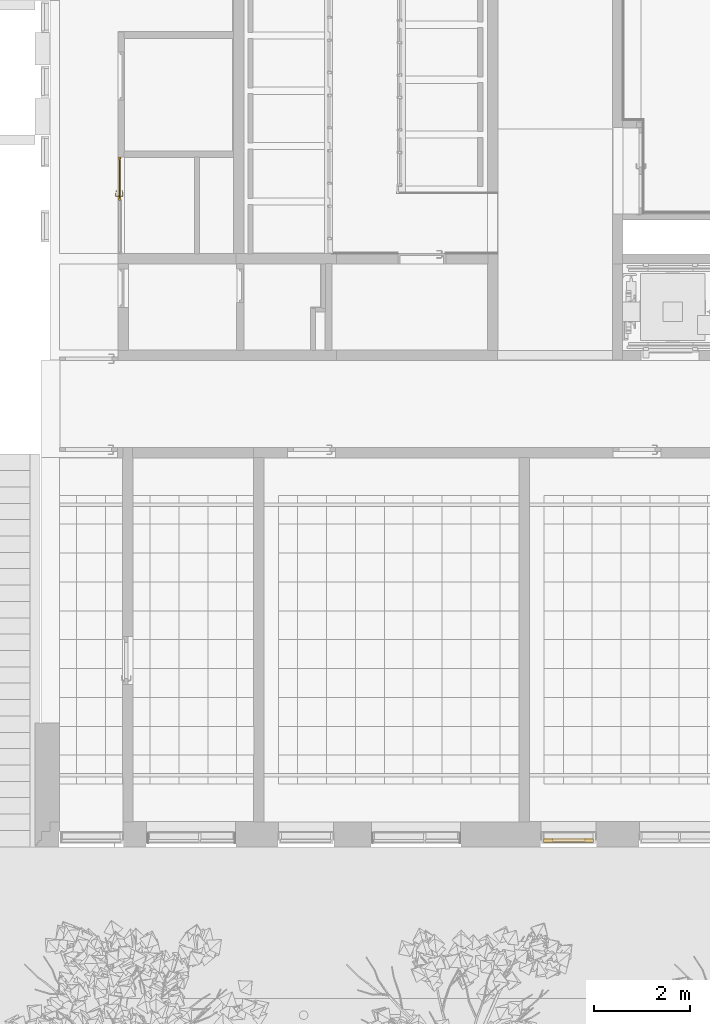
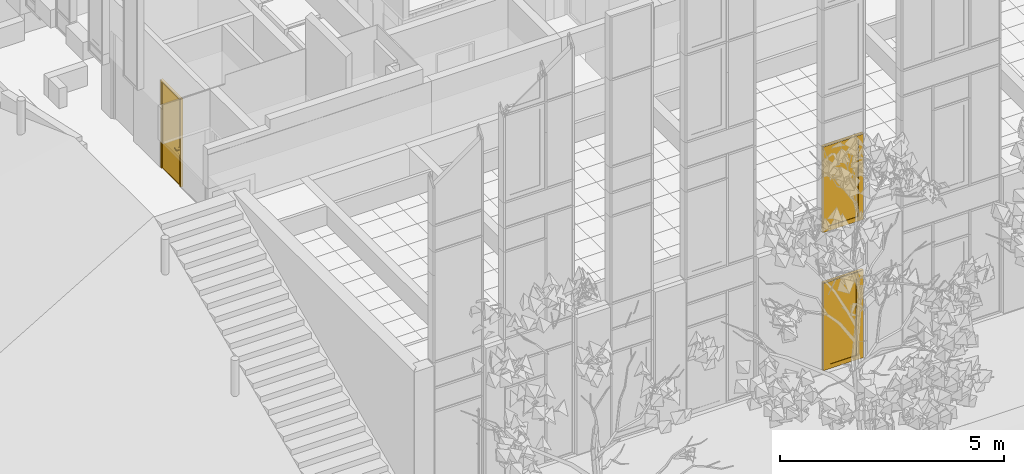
# One storey, part 154 of 246: 2 doors, 1 window, 2 elements without a shape of their own.
"""IFC2X3 building model written with IfcOpenShell, lengths in millimetres."""

from ifc_helpers import new_model, entity, si_unit, converted_unit, derived_unit, money_unit, direction, frame, origin_with_axes, place, context, subcontext, project, spatial, open_shell, faceted_brep, surface_model, material, material_list, type_object, element, aggregate, save


model = new_model("IFC2X3")

# Units and contexts
model_context = context("Model", 3, precision=0.01, world=origin_with_axes(), true_north=direction((0.0, 1.0)))
body_context = subcontext(model_context, "Body", "Model", "MODEL_VIEW")
ifc_project = project(units=[si_unit("LENGTHUNIT", "METRE", prefix="MILLI"), si_unit("AREAUNIT", "SQUARE_METRE"), si_unit("VOLUMEUNIT", "CUBIC_METRE"), converted_unit("PLANEANGLEUNIT", "DEGREE", entity("IfcPlaneAngleMeasure", 0.0174532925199), si_unit("PLANEANGLEUNIT", "RADIAN"), dimensions=[0, 0, 0, 0, 0, 0, 0]), si_unit("SOLIDANGLEUNIT", "STERADIAN"), money_unit("EUR"), converted_unit("TIMEUNIT", "Year", entity("IfcTimeMeasure", 31556926.0), si_unit("TIMEUNIT", "SECOND"), dimensions=[0, 0, 1, 0, 0, 0, 0]), si_unit("MASSUNIT", "GRAM", prefix="KILO"), si_unit("THERMODYNAMICTEMPERATUREUNIT", "DEGREE_CELSIUS"), si_unit("LUMINOUSINTENSITYUNIT", "LUMEN"), si_unit("ENERGYUNIT", "JOULE", prefix="MEGA"), derived_unit("THERMALCONDUCTANCEUNIT", [(si_unit("POWERUNIT", "WATT"), 1), (si_unit("LENGTHUNIT", "METRE"), -1), (si_unit("THERMODYNAMICTEMPERATUREUNIT", "KELVIN"), -1)]), derived_unit("SPECIFICHEATCAPACITYUNIT", [(si_unit("ENERGYUNIT", "JOULE"), 1), (si_unit("MASSUNIT", "GRAM", prefix="KILO"), -1), (si_unit("THERMODYNAMICTEMPERATUREUNIT", "KELVIN"), -1)]), derived_unit("MASSDENSITYUNIT", [(si_unit("MASSUNIT", "GRAM", prefix="KILO"), 1), (si_unit("VOLUMEUNIT", "CUBIC_METRE"), -1)])], contexts=[model_context])

# Site, building, storey
site_placement = place(None, origin_with_axes())
site = spatial("IfcSite", under=ifc_project, at=site_placement, Name="L.Koidula tn 11b", CompositionType="ELEMENT")
building_placement = place(site_placement, origin_with_axes())
building = spatial("IfcBuilding", under=site, at=building_placement, Name="Rakvere Riigigümnaasium", CompositionType="ELEMENT")
storey_placement = place(building_placement, origin_with_axes())
storey = spatial("IfcBuildingStorey", under=building, at=storey_placement, Name="1.korrus 0,00", CompositionType="ELEMENT", Elevation=0.0)

# Curtain wall, door
curtain_wall_type = type_object("IfcCurtainWallType", Name="Curtain Wall Type", PredefinedType="NOTDEFINED")
curtain_wall_1_placement = place(storey_placement, frame((45905.0206042, 5111.45334637, -8.09717236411e-06), z_axis=(0.0, 0.0, 1.0), x_axis=(1.0, 0.0, 0.0)))
curtain_wall_1 = element("IfcCurtainWall", 1, at=curtain_wall_1_placement, inside=storey, type_object=curtain_wall_type, Name="KLF-05-1B")
ifc_material_1 = material(Name="Alumiiniumprofiil (RAL 7021)")
ifc_material_2 = material(Name="Klaaspakett 3x ribikardinatega")
ifc_material_list_1 = material_list([ifc_material_1, ifc_material_2])
door_style_1 = type_object("IfcDoorStyle", Name="1046 x 2388 x 54", ConstructionType="NOTDEFINED", OperationType="NOTDEFINED", ParameterTakesPrecedence=False, Sizeable=False)
door_1_placement = place(curtain_wall_1_placement, frame((0.0, 0.0, 1200.0), z_axis=(0.0, 0.0, 1.0), x_axis=(-1.0, 0.0, 0.0)))
door_1 = element("IfcDoor", 2, at=door_1_placement, type_object=door_style_1, material=ifc_material_list_1, Name="KLF-05-VU-2", ObjectType="DOOR", context=body_context, shape_type="SurfaceModel", body=[
    surface_model("IfcShellBasedSurfaceModel", [(-684.490464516, -53.0, -1200.0), (-631.490464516, -53.0, -1200.0), (-631.490464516, -53.0, 1122.0), (-684.490464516, -53.0, 1175.0)], [open_shell([[[0, 1, 2, 3]]])]),
    surface_model("IfcShellBasedSurfaceModel", [(335.509964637, -53.0, 1175.0), (-684.490464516, -53.0, 1175.0), (-631.490464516, -53.0, 1122.0), (282.509964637, -53.0, 1122.0)], [open_shell([[[0, 1, 2, 3]]])]),
    surface_model("IfcShellBasedSurfaceModel", [(335.509964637, -53.0, -1200.0), (335.509964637, -53.0, 1175.0), (282.509964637, -53.0, 1122.0), (282.509964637, -53.0, -1200.0)], [open_shell([[[0, 1, 2, 3]]])]),
    faceted_brep([(-684.490464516, -53.0, -1200.0), (-684.490464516, -53.0, 1175.0), (-684.490464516, 37.0, 1175.0), (-684.490464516, 37.0, -1200.0), (-631.490464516, -53.0, -1200.0), (-631.490464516, -53.0, 1122.0), (-631.490464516, 37.0, 1122.0), (-631.490464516, 37.0, -1200.0)], [[[0, 1, 2, 3]], [[0, 4, 5, 1]], [[1, 5, 6, 2]], [[3, 2, 6, 7]], [[4, 0, 3, 7]], [[5, 4, 7, 6]]]),
    faceted_brep([(335.509964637, -53.0, 1175.0), (282.509964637, -53.0, 1122.0), (282.509964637, 37.0, 1122.0), (335.509964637, 37.0, 1175.0), (-684.490464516, -53.0, 1175.0), (-631.490464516, -53.0, 1122.0), (-631.490464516, 37.0, 1122.0), (-684.490464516, 37.0, 1175.0)], [[[0, 1, 2, 3]], [[0, 4, 5, 1]], [[1, 5, 6, 2]], [[3, 2, 6, 7]], [[4, 0, 3, 7]], [[5, 4, 7, 6]]]),
    faceted_brep([(335.509964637, -53.0, -1200.0), (282.509964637, -53.0, -1200.0), (282.509964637, 37.0, -1200.0), (335.509964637, 37.0, -1200.0), (335.509964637, -53.0, 1175.0), (282.509964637, -53.0, 1122.0), (282.509964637, 37.0, 1122.0), (335.509964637, 37.0, 1175.0)], [[[0, 1, 2, 3]], [[0, 4, 5, 1]], [[1, 5, 6, 2]], [[3, 2, 6, 7]], [[4, 0, 3, 7]], [[5, 4, 7, 6]]]),
    faceted_brep([(-697.490464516, -27.0, -1200.0), (-697.490464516, -27.0, 1188.0), (-697.490464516, 27.0, 1188.0), (-697.490464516, 27.0, -1200.0), (-684.490464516, -27.0, -1200.0), (-684.490464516, -27.0, 1175.0), (-684.490464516, 27.0, 1175.0), (-684.490464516, 27.0, -1200.0)], [[[0, 1, 2, 3]], [[0, 4, 5, 1]], [[1, 5, 6, 2]], [[3, 2, 6, 7]], [[4, 0, 3, 7]], [[5, 4, 7, 6]]]),
    faceted_brep([(-697.490464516, -27.0, 1188.0), (348.509964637, -27.0, 1188.0), (348.509964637, 27.0, 1188.0), (-697.490464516, 27.0, 1188.0), (-684.490464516, -27.0, 1175.0), (335.509964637, -27.0, 1175.0), (335.509964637, 27.0, 1175.0), (-684.490464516, 27.0, 1175.0)], [[[0, 1, 2, 3]], [[0, 4, 5, 1]], [[1, 5, 6, 2]], [[3, 2, 6, 7]], [[4, 0, 3, 7]], [[5, 4, 7, 6]]]),
    faceted_brep([(348.509964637, -27.0, 1188.0), (348.509964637, -27.0, -1200.0), (348.509964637, 27.0, -1200.0), (348.509964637, 27.0, 1188.0), (335.509964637, -27.0, 1175.0), (335.509964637, -27.0, -1200.0), (335.509964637, 27.0, -1200.0), (335.509964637, 27.0, 1175.0)], [[[0, 1, 2, 3]], [[0, 4, 5, 1]], [[1, 5, 6, 2]], [[3, 2, 6, 7]], [[4, 0, 3, 7]], [[5, 4, 7, 6]]]),
    faceted_brep([(163.509964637, -53.0, -1081.0), (163.509964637, -53.0, 1003.0), (163.509964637, 37.0, 1003.0), (163.509964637, 37.0, -1081.0), (282.509964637, -53.0, -1200.0), (282.509964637, -53.0, 1122.0), (282.509964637, 37.0, 1122.0), (282.509964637, 37.0, -1200.0)], [[[0, 1, 2, 3]], [[0, 4, 5, 1]], [[1, 5, 6, 2]], [[3, 2, 6, 7]], [[4, 0, 3, 7]], [[5, 4, 7, 6]]]),
    faceted_brep([(-631.490464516, -53.0, -1200.0), (-631.490464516, -53.0, 1122.0), (-631.490464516, 37.0, 1122.0), (-631.490464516, 37.0, -1200.0), (-512.490464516, -53.0, -1081.0), (-512.490464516, -53.0, 1003.0), (-512.490464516, 37.0, 1003.0), (-512.490464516, 37.0, -1081.0)], [[[0, 1, 2, 3]], [[0, 4, 5, 1]], [[1, 5, 6, 2]], [[3, 2, 6, 7]], [[4, 0, 3, 7]], [[5, 4, 7, 6]]]),
    faceted_brep([(-631.490464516, -53.0, -1200.0), (-512.490464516, -53.0, -1081.0), (-512.490464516, 37.0, -1081.0), (-631.490464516, 37.0, -1200.0), (282.509964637, -53.0, -1200.0), (163.509964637, -53.0, -1081.0), (163.509964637, 37.0, -1081.0), (282.509964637, 37.0, -1200.0)], [[[0, 1, 2, 3]], [[0, 4, 5, 1]], [[1, 5, 6, 2]], [[3, 2, 6, 7]], [[4, 0, 3, 7]], [[5, 4, 7, 6]]]),
    faceted_brep([(282.509964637, -53.0, 1122.0), (163.509964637, -53.0, 1003.0), (163.509964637, 37.0, 1003.0), (282.509964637, 37.0, 1122.0), (-631.490464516, -53.0, 1122.0), (-512.490464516, -53.0, 1003.0), (-512.490464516, 37.0, 1003.0), (-631.490464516, 37.0, 1122.0)], [[[0, 1, 2, 3]], [[0, 4, 5, 1]], [[1, 5, 6, 2]], [[3, 2, 6, 7]], [[4, 0, 3, 7]], [[5, 4, 7, 6]]]),
    faceted_brep([(163.509964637, 11.0, -1081.0), (-512.490464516, 11.0, -1081.0), (-512.490464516, 27.0, -1081.0), (163.509964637, 27.0, -1081.0), (163.509964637, 11.0, 1003.0), (-512.490464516, 11.0, 1003.0), (-512.490464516, 27.0, 1003.0), (163.509964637, 27.0, 1003.0)], [[[0, 1, 2, 3]], [[0, 4, 5, 1]], [[1, 5, 6, 2]], [[3, 2, 6, 7]], [[4, 0, 3, 7]], [[5, 4, 7, 6]]]),
])

curtain_wall_2_placement = place(storey_placement, frame((36749.0000697, 18870.4397072, 0.0), z_axis=(0.0, 0.0, 1.0), x_axis=(1.0, 0.0, 0.0)))
curtain_wall_2 = element("IfcCurtainWall", 3, at=curtain_wall_2_placement, inside=storey, type_object=curtain_wall_type, Name="SKLF-06")
ifc_material_3 = material(Name="Alumiiniumprofiil")
ifc_material_4 = material(Name="VKR-05_Klaas")
ifc_material_5 = material(Name="ET-07_Teras - Roostevaba")
ifc_material_list_2 = material_list([ifc_material_3, ifc_material_4, ifc_material_5])
door_style_2 = type_object("IfcDoorStyle", Name="Siseklaasfassaad - Klaasuks-Doubleline 900 x 2400 x 6", ConstructionType="NOTDEFINED", OperationType="NOTDEFINED", ParameterTakesPrecedence=False, Sizeable=False)
door_2_placement = place(curtain_wall_2_placement, frame((0.0, 0.0, 1200.00000374), z_axis=(0.0, 0.0, 1.0), x_axis=(0.0, 1.0, 0.0)))
door_2 = element("IfcDoor", 4, at=door_2_placement, type_object=door_style_2, material=ifc_material_list_2, Name="Panel-Siseklaasf-005", ObjectType="DOOR", context=body_context, shape_type="SurfaceModel", body=[
    faceted_brep([(-450.0, 13.0, -1200.00000374), (-450.0, 13.0, 1200.00000374), (-450.0, 27.0, 1200.00000374), (-450.0, 27.0, -1200.00000374), (-404.0, 13.0, -1200.00000374), (-404.0, 13.0, 1154.00000374), (-404.0, 27.0, 1154.00000374), (-404.0, 27.0, -1200.00000374)], [[[0, 1, 2, 3]], [[0, 4, 5, 1]], [[1, 5, 6, 2]], [[3, 2, 6, 7]], [[4, 0, 3, 7]], [[5, 4, 7, 6]]]),
    faceted_brep([(450.0, 13.0, 1200.00000374), (404.0, 13.0, 1154.00000374), (404.0, 27.0, 1154.00000374), (450.0, 27.0, 1200.00000374), (-450.0, 13.0, 1200.00000374), (-404.0, 13.0, 1154.00000374), (-404.0, 27.0, 1154.00000374), (-450.0, 27.0, 1200.00000374)], [[[0, 1, 2, 3]], [[0, 4, 5, 1]], [[1, 5, 6, 2]], [[3, 2, 6, 7]], [[4, 0, 3, 7]], [[5, 4, 7, 6]]]),
    faceted_brep([(450.0, 13.0, -1200.00000374), (404.0, 13.0, -1200.00000374), (404.0, 27.0, -1200.00000374), (450.0, 27.0, -1200.00000374), (450.0, 13.0, 1200.00000374), (404.0, 13.0, 1154.00000374), (404.0, 27.0, 1154.00000374), (450.0, 27.0, 1200.00000374)], [[[0, 1, 2, 3]], [[0, 4, 5, 1]], [[1, 5, 6, 2]], [[3, 2, 6, 7]], [[4, 0, 3, 7]], [[5, 4, 7, 6]]]),
    faceted_brep([(-450.0, -27.0, -1200.00000374), (-450.0, -27.0, 1200.00000374), (-450.0, 13.0, 1200.00000374), (-450.0, 13.0, -1200.00000374), (-412.0, -27.0, -1200.00000374), (-412.0, -27.0, 1162.00000374), (-412.0, 13.0, 1162.00000374), (-412.0, 13.0, -1200.00000374)], [[[0, 1, 2, 3]], [[0, 4, 5, 1]], [[1, 5, 6, 2]], [[3, 2, 6, 7]], [[4, 0, 3, 7]], [[5, 4, 7, 6]]]),
    faceted_brep([(450.0, -27.0, 1200.00000374), (412.0, -27.0, 1162.00000374), (412.0, 13.0, 1162.00000374), (450.0, 13.0, 1200.00000374), (-450.0, -27.0, 1200.00000374), (-412.0, -27.0, 1162.00000374), (-412.0, 13.0, 1162.00000374), (-450.0, 13.0, 1200.00000374)], [[[0, 1, 2, 3]], [[0, 4, 5, 1]], [[1, 5, 6, 2]], [[3, 2, 6, 7]], [[4, 0, 3, 7]], [[5, 4, 7, 6]]]),
    faceted_brep([(450.0, -27.0, -1200.00000374), (412.0, -27.0, -1200.00000374), (412.0, 13.0, -1200.00000374), (450.0, 13.0, -1200.00000374), (450.0, -27.0, 1200.00000374), (412.0, -27.0, 1162.00000374), (412.0, 13.0, 1162.00000374), (450.0, 13.0, 1200.00000374)], [[[0, 1, 2, 3]], [[0, 4, 5, 1]], [[1, 5, 6, 2]], [[3, 2, 6, 7]], [[4, 0, 3, 7]], [[5, 4, 7, 6]]]),
    faceted_brep([(400.0, 13.0, -1188.00000374), (400.0, 0.999999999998, -1188.00000374), (400.0, 0.999999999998, 1150.00000374), (400.0, 13.0, 1150.00000374), (412.0, 13.0, -1200.00000374), (412.0, 0.999999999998, -1200.00000374), (412.0, 0.999999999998, 1162.00000374), (412.0, 13.0, 1162.00000374)], [[[0, 1, 2, 3]], [[4, 5, 1, 0]], [[1, 5, 6, 2]], [[3, 2, 6, 7]], [[0, 3, 7, 4]], [[7, 6, 5, 4]]]),
    faceted_brep([(-412.0, 13.0, -1200.00000374), (-412.0, 0.999999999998, -1200.00000374), (-412.0, 0.999999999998, 1162.00000374), (-412.0, 13.0, 1162.00000374), (-400.0, 13.0, -1188.00000374), (-400.0, 0.999999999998, -1188.00000374), (-400.0, 0.999999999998, 1150.00000374), (-400.0, 13.0, 1150.00000374)], [[[0, 1, 2, 3]], [[4, 5, 1, 0]], [[1, 5, 6, 2]], [[3, 2, 6, 7]], [[0, 3, 7, 4]], [[7, 6, 5, 4]]]),
    faceted_brep([(-412.0, 13.0, -1200.00000374), (-412.0, 0.999999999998, -1200.00000374), (-400.0, 0.999999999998, -1188.00000374), (-400.0, 13.0, -1188.00000374), (412.0, 13.0, -1200.00000374), (412.0, 0.999999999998, -1200.00000374), (400.0, 0.999999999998, -1188.00000374), (400.0, 13.0, -1188.00000374)], [[[0, 1, 2, 3]], [[4, 5, 1, 0]], [[1, 5, 6, 2]], [[3, 2, 6, 7]], [[0, 3, 7, 4]], [[7, 6, 5, 4]]]),
    faceted_brep([(412.0, 13.0, 1162.00000374), (412.0, 0.999999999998, 1162.00000374), (400.0, 0.999999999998, 1150.00000374), (400.0, 13.0, 1150.00000374), (-412.0, 13.0, 1162.00000374), (-412.0, 0.999999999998, 1162.00000374), (-400.0, 0.999999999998, 1150.00000374), (-400.0, 13.0, 1150.00000374)], [[[0, 1, 2, 3]], [[4, 5, 1, 0]], [[1, 5, 6, 2]], [[3, 2, 6, 7]], [[0, 3, 7, 4]], [[7, 6, 5, 4]]]),
    faceted_brep([(400.0, 3.0, -1188.00000374), (400.0, -13.0, -1188.00000374), (-400.0, -13.0, -1188.00000374), (-400.0, 3.0, -1188.00000374), (400.0, 3.0, 1150.00000374), (400.0, -13.0, 1150.00000374), (-400.0, -13.0, 1150.00000374), (-400.0, 3.0, 1150.00000374)], [[[0, 1, 2, 3]], [[4, 5, 1, 0]], [[1, 5, 6, 2]], [[3, 2, 6, 7]], [[0, 3, 7, 4]], [[7, 6, 5, 4]]]),
    faceted_brep([(-390.5, 0.999999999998, -178.000003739), (-390.5, -2.0, -178.000003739), (-333.5, -2.0, -178.000003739), (-333.5, 0.999999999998, -178.000003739), (-390.5, 0.999999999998, -368.000003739), (-390.5, -2.0, -368.000003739), (-333.5, -2.0, -368.000003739), (-333.5, 0.999999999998, -368.000003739)], [[[0, 1, 2, 3]], [[4, 5, 1, 0]], [[1, 5, 6, 2]], [[3, 2, 6, 7]], [[0, 3, 7, 4]], [[7, 6, 5, 4]]]),
    surface_model("IfcShellBasedSurfaceModel", [(-362.0, -63.0, -248.000003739), (-362.0, -70.0, -248.000003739), (-370.660254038, -70.0, -243.000003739), (-370.660254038, -63.0, -243.000003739), (-337.0, -63.0, -248.000003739), (-337.0, -70.0, -248.000003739), (-337.0, -70.0, -228.000003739), (-362.0, -70.0, -228.000003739), (-370.660254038, -70.0, -233.000003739), (-370.660254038, -63.0, -233.000003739), (-362.0, -63.0, -228.000003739), (-337.0, -63.0, -228.000003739)], [open_shell([[[0, 1, 2, 3]], [[4, 5, 1, 0]], [[1, 5, 6, 7, 8, 2]], [[3, 2, 8, 9]], [[0, 3, 9, 10, 11, 4]], [[10, 7, 6, 11]], [[9, 8, 7, 10]]])]),
    surface_model("IfcShellBasedSurfaceModel", [(-337.0, -63.0, -228.000003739), (-323.596090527, -70.0, -228.392702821), (-323.901717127, -63.0, -228.392702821), (-337.0, -70.0, -228.000003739), (-296.890283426, -67.6635446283, -229.178100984), (-323.901717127, -63.0, -247.607304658), (-337.0, -63.0, -248.000003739), (-337.0, -70.0, -248.000003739), (-323.596090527, -70.0, -247.607304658), (-296.890283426, -67.6635446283, -246.821906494), (-297.804837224, -60.716818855, -229.178100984), (-297.804837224, -60.716818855, -246.821906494), (-270.489735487, -63.0084157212, -246.036508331), (-270.489735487, -63.0084157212, -229.963499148), (-272.006256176, -56.1678329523, -229.963499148), (-272.006256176, -56.1678329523, -246.036508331), (-244.59537082, -56.0700416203, -245.251110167), (-244.59537082, -56.0700416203, -230.748897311), (-246.702316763, -49.3876628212, -230.748897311), (-246.702316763, -49.3876628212, -245.251110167), (-236.538795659, -53.1376880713, -245.000003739), (-236.538795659, -53.1376880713, -231.000003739), (-238.829442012, -46.5221707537, -231.000003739), (-238.829442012, -46.5221707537, -245.000003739)], [open_shell([[[0, 1, 2]], [[0, 3, 1]], [[2, 1, 4]], [[0, 2, 5, 6]], [[3, 7, 8, 1]], [[1, 8, 9, 4]], [[2, 4, 10]], [[2, 10, 11, 5]], [[5, 7, 6]], [[5, 8, 7]], [[11, 9, 8]], [[4, 9, 12, 13]], [[10, 4, 13]], [[10, 14, 15, 11]], [[11, 8, 5]], [[15, 9, 11]], [[15, 12, 9]], [[13, 12, 16, 17]], [[10, 13, 14]], [[14, 18, 19, 15]], [[19, 12, 15]], [[19, 16, 12]], [[17, 16, 20, 21]], [[14, 13, 17]], [[14, 17, 18]], [[18, 22, 23, 19]], [[23, 16, 19]], [[23, 20, 16]], [[22, 21, 20, 23]], [[18, 17, 21]], [[18, 21, 22]]])]),
    faceted_brep([(-358.291796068, -12.0, -249.412681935), (-357.982779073, -2.0, -250.363738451), (-349.0, -2.0, -238.000003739), (-350.0, -12.0, -238.000003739), (-371.708203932, -12.0, -245.053426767), (-372.517220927, -2.0, -245.641212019), (-372.517220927, -2.0, -230.35879546), (-357.982779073, -2.0, -225.636269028), (-358.291796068, -12.0, -226.587325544), (-371.708203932, -12.0, -230.946580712)], [[[0, 1, 2, 3]], [[4, 5, 1, 0]], [[2, 1, 5, 6, 7]], [[3, 2, 7, 8]], [[3, 8, 9, 4, 0]], [[9, 6, 5, 4]], [[8, 7, 6, 9]]]),
    faceted_brep([(-355.819660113, -6.0, -352.021134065), (-355.201626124, -2.0, -353.923247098), (-340.0, -2.0, -333.000003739), (-342.0, -6.0, -333.000003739), (-378.180339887, -6.0, -344.755708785), (-379.798373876, -2.0, -345.93127929), (-379.798373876, -2.0, -320.068728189), (-355.201626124, -2.0, -312.076760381), (-355.819660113, -6.0, -313.978873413), (-378.180339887, -6.0, -321.244298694)], [[[0, 1, 2, 3]], [[4, 5, 1, 0]], [[2, 1, 5, 6, 7]], [[3, 2, 7, 8]], [[3, 8, 9, 4, 0]], [[9, 6, 5, 4]], [[8, 7, 6, 9]]]),
    faceted_brep([(-359.836881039, -8.0, -330.657399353), (-359.527864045, -6.0, -331.60845587), (-354.0, -6.0, -324.000003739), (-355.0, -8.0, -324.000003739), (-367.663118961, -8.0, -328.114500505), (-368.472135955, -6.0, -328.702285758), (-368.472135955, -6.0, -319.297721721), (-359.527864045, -6.0, -316.391551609), (-359.836881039, -8.0, -317.342608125), (-367.663118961, -8.0, -319.885506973)], [[[0, 1, 2, 3]], [[4, 5, 1, 0]], [[2, 1, 5, 6, 7]], [[3, 2, 7, 8]], [[3, 8, 9, 4, 0]], [[9, 6, 5, 4]], [[8, 7, 6, 9]]]),
    faceted_brep([(-362.0, -12.0, -228.000003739), (-362.0, -63.0, -228.000003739), (-352.489434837, -63.0, -234.909833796), (-352.489434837, -12.0, -234.909833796), (-371.510565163, -12.0, -234.909833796), (-371.510565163, -63.0, -234.909833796), (-367.877852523, -63.0, -246.090173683), (-356.122147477, -63.0, -246.090173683), (-356.122147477, -12.0, -246.090173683), (-367.877852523, -12.0, -246.090173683)], [[[0, 1, 2, 3]], [[4, 5, 1, 0]], [[1, 5, 6, 7, 2]], [[3, 2, 7, 8]], [[0, 3, 8, 9, 4]], [[9, 6, 5, 4]], [[8, 7, 6, 9]]]),
    faceted_brep([(-390.5, 13.0, -178.000003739), (-333.5, 13.0, -178.000003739), (-333.5, 16.0, -178.000003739), (-390.5, 16.0, -178.000003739), (-390.5, 13.0, -368.000003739), (-333.5, 13.0, -368.000003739), (-333.5, 16.0, -368.000003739), (-390.5, 16.0, -368.000003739)], [[[0, 1, 2, 3]], [[0, 4, 5, 1]], [[1, 5, 6, 2]], [[3, 2, 6, 7]], [[4, 0, 3, 7]], [[5, 4, 7, 6]]]),
    surface_model("IfcShellBasedSurfaceModel", [(-362.0, 77.0, -248.000003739), (-370.660254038, 77.0, -243.000003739), (-370.660254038, 84.0, -243.000003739), (-362.0, 84.0, -248.000003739), (-337.0, 77.0, -248.000003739), (-337.0, 77.0, -228.000003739), (-362.0, 77.0, -228.000003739), (-370.660254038, 77.0, -233.000003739), (-370.660254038, 84.0, -233.000003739), (-362.0, 84.0, -228.000003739), (-337.0, 84.0, -228.000003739), (-337.0, 84.0, -248.000003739)], [open_shell([[[0, 1, 2, 3]], [[0, 4, 5, 6, 7, 1]], [[1, 7, 8, 2]], [[3, 2, 8, 9, 10, 11]], [[4, 0, 3, 11]], [[6, 5, 10, 9]], [[7, 6, 9, 8]]])]),
    surface_model("IfcShellBasedSurfaceModel", [(-337.0, 77.0, -228.000003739), (-323.901717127, 77.0, -228.392702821), (-323.596090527, 84.0, -228.392702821), (-337.0, 77.0, -248.000003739), (-323.901717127, 77.0, -247.607304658), (-296.890283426, 81.6635446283, -229.178100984), (-337.0, 84.0, -228.000003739), (-337.0, 84.0, -248.000003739), (-297.804837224, 74.716818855, -246.821906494), (-297.804837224, 74.716818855, -229.178100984), (-296.890283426, 81.6635446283, -246.821906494), (-323.596090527, 84.0, -247.607304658), (-272.006256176, 70.1678329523, -246.036508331), (-272.006256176, 70.1678329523, -229.963499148), (-270.489735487, 77.0084157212, -229.963499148), (-270.489735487, 77.0084157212, -246.036508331), (-246.702316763, 63.3876628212, -245.251110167), (-246.702316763, 63.3876628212, -230.748897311), (-244.59537082, 70.0700416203, -230.748897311), (-244.59537082, 70.0700416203, -245.251110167), (-238.829442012, 60.5221707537, -245.000003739), (-238.829442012, 60.5221707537, -231.000003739), (-236.538795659, 67.1376880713, -231.000003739), (-236.538795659, 67.1376880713, -245.000003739)], [open_shell([[[0, 1, 2]], [[0, 3, 4, 1]], [[1, 5, 2]], [[0, 2, 6]], [[4, 3, 7]], [[1, 4, 8, 9]], [[1, 9, 5]], [[2, 5, 10, 11]], [[6, 2, 11, 7]], [[4, 7, 11]], [[8, 4, 11]], [[9, 8, 12, 13]], [[9, 14, 5]], [[5, 14, 15, 10]], [[8, 11, 10]], [[12, 8, 10]], [[13, 12, 16, 17]], [[9, 13, 14]], [[14, 18, 19, 15]], [[12, 10, 15]], [[16, 12, 15]], [[17, 16, 20, 21]], [[13, 17, 18]], [[13, 18, 14]], [[18, 22, 23, 19]], [[16, 15, 19]], [[20, 16, 19]], [[21, 20, 23, 22]], [[17, 21, 22]], [[17, 22, 18]], [[20, 19, 23]]])]),
    faceted_brep([(-358.291796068, 26.0, -249.412681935), (-350.0, 26.0, -238.000003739), (-349.0, 16.0, -238.000003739), (-357.982779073, 16.0, -250.363738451), (-371.708203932, 26.0, -245.053426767), (-371.708203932, 26.0, -230.946580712), (-358.291796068, 26.0, -226.587325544), (-357.982779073, 16.0, -225.636269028), (-372.517220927, 16.0, -230.35879546), (-372.517220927, 16.0, -245.641212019)], [[[0, 1, 2, 3]], [[1, 0, 4, 5, 6]], [[1, 6, 7, 2]], [[2, 7, 8, 9, 3]], [[4, 0, 3, 9]], [[5, 4, 9, 8]], [[6, 5, 8, 7]]]),
    faceted_brep([(-355.819660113, 20.0, -352.021134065), (-342.0, 20.0, -333.000003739), (-340.0, 16.0, -333.000003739), (-355.201626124, 16.0, -353.923247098), (-378.180339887, 20.0, -344.755708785), (-378.180339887, 20.0, -321.244298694), (-355.819660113, 20.0, -313.978873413), (-355.201626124, 16.0, -312.076760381), (-379.798373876, 16.0, -320.068728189), (-379.798373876, 16.0, -345.93127929)], [[[0, 1, 2, 3]], [[1, 0, 4, 5, 6]], [[1, 6, 7, 2]], [[2, 7, 8, 9, 3]], [[4, 0, 3, 9]], [[5, 4, 9, 8]], [[6, 5, 8, 7]]]),
    faceted_brep([(-359.836881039, 22.0, -330.657399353), (-355.0, 22.0, -324.000003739), (-354.0, 20.0, -324.000003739), (-359.527864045, 20.0, -331.60845587), (-367.663118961, 22.0, -328.114500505), (-367.663118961, 22.0, -319.885506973), (-359.836881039, 22.0, -317.342608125), (-359.527864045, 20.0, -316.391551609), (-368.472135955, 20.0, -319.297721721), (-368.472135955, 20.0, -328.702285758)], [[[0, 1, 2, 3]], [[1, 0, 4, 5, 6]], [[1, 6, 7, 2]], [[2, 7, 8, 9, 3]], [[4, 0, 3, 9]], [[5, 4, 9, 8]], [[6, 5, 8, 7]]]),
    faceted_brep([(-362.0, 26.0, -228.000003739), (-352.489434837, 26.0, -234.909833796), (-352.489434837, 77.0, -234.909833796), (-362.0, 77.0, -228.000003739), (-371.510565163, 26.0, -234.909833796), (-367.877852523, 26.0, -246.090173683), (-356.122147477, 26.0, -246.090173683), (-356.122147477, 77.0, -246.090173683), (-367.877852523, 77.0, -246.090173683), (-371.510565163, 77.0, -234.909833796)], [[[0, 1, 2, 3]], [[0, 4, 5, 6, 1]], [[1, 6, 7, 2]], [[3, 2, 7, 8, 9]], [[4, 0, 3, 9]], [[5, 4, 9, 8]], [[6, 5, 8, 7]]]),
])
aggregate(curtain_wall_2, [door_2])

# Window
window_style = type_object("IfcWindowStyle", Name="1046 x 2351 x 65", ConstructionType="NOTDEFINED", OperationType="NOTDEFINED", ParameterTakesPrecedence=False, Sizeable=False)
window_placement = place(curtain_wall_1_placement, frame((0.0, 0.0, 4932.5), z_axis=(0.0, 0.0, 1.0), x_axis=(-1.0, 0.0, 0.0)))
window = element("IfcWindow", 5, at=window_placement, type_object=window_style, material=ifc_material_list_1, Name="KLF-05-A-1", ObjectType="WINDOW", context=body_context, shape_type="SurfaceModel", body=[
    surface_model("IfcShellBasedSurfaceModel", [(335.50995905, 43.5, -1162.5000149), (276.50995905, 43.5, -1103.5000149), (-625.490445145, 43.5, -1103.5000149), (-684.490445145, 43.5, -1162.5000149)], [open_shell([[[0, 1, 2, 3]]])]),
    surface_model("IfcShellBasedSurfaceModel", [(-684.490445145, 43.5, -1162.5000149), (-625.490445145, 43.5, -1103.5000149), (-625.490445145, 43.5, 1103.5000149), (-684.490445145, 43.5, 1162.5000149)], [open_shell([[[0, 1, 2, 3]]])]),
    surface_model("IfcShellBasedSurfaceModel", [(335.50995905, 43.5, 1162.5000149), (-684.490445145, 43.5, 1162.5000149), (-625.490445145, 43.5, 1103.5000149), (276.50995905, 43.5, 1103.5000149)], [open_shell([[[0, 1, 2, 3]]])]),
    surface_model("IfcShellBasedSurfaceModel", [(335.50995905, 43.5, -1162.5000149), (335.50995905, 43.5, 1162.5000149), (276.50995905, 43.5, 1103.5000149), (276.50995905, 43.5, -1103.5000149)], [open_shell([[[0, 1, 2, 3]]])]),
    faceted_brep([(335.50995905, -45.5, -1162.5000149), (-684.490445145, -45.5, -1162.5000149), (-684.490445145, 43.5, -1162.5000149), (335.50995905, 43.5, -1162.5000149), (276.50995905, -45.5, -1103.5000149), (-625.490445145, -45.5, -1103.5000149), (-625.490445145, 43.5, -1103.5000149), (276.50995905, 43.5, -1103.5000149)], [[[0, 1, 2, 3]], [[0, 4, 5, 1]], [[1, 5, 6, 2]], [[3, 2, 6, 7]], [[4, 0, 3, 7]], [[5, 4, 7, 6]]]),
    faceted_brep([(-684.490445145, -45.5, -1162.5000149), (-684.490445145, -45.5, 1162.5000149), (-684.490445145, 43.5, 1162.5000149), (-684.490445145, 43.5, -1162.5000149), (-625.490445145, -45.5, -1103.5000149), (-625.490445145, -45.5, 1103.5000149), (-625.490445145, 43.5, 1103.5000149), (-625.490445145, 43.5, -1103.5000149)], [[[0, 1, 2, 3]], [[0, 4, 5, 1]], [[1, 5, 6, 2]], [[3, 2, 6, 7]], [[4, 0, 3, 7]], [[5, 4, 7, 6]]]),
    faceted_brep([(335.50995905, -45.5, 1162.5000149), (276.50995905, -45.5, 1103.5000149), (276.50995905, 43.5, 1103.5000149), (335.50995905, 43.5, 1162.5000149), (-684.490445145, -45.5, 1162.5000149), (-625.490445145, -45.5, 1103.5000149), (-625.490445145, 43.5, 1103.5000149), (-684.490445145, 43.5, 1162.5000149)], [[[0, 1, 2, 3]], [[0, 4, 5, 1]], [[1, 5, 6, 2]], [[3, 2, 6, 7]], [[4, 0, 3, 7]], [[5, 4, 7, 6]]]),
    faceted_brep([(335.50995905, -45.5, -1162.5000149), (276.50995905, -45.5, -1103.5000149), (276.50995905, 43.5, -1103.5000149), (335.50995905, 43.5, -1162.5000149), (335.50995905, -45.5, 1162.5000149), (276.50995905, -45.5, 1103.5000149), (276.50995905, 43.5, 1103.5000149), (335.50995905, 43.5, 1162.5000149)], [[[0, 1, 2, 3]], [[0, 4, 5, 1]], [[1, 5, 6, 2]], [[3, 2, 6, 7]], [[4, 0, 3, 7]], [[5, 4, 7, 6]]]),
    faceted_brep([(348.509981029, -32.5, -1175.50000149), (-697.490467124, -32.5, -1175.50000149), (-697.490467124, 32.5, -1175.50000149), (348.509981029, 32.5, -1175.50000149), (335.50995905, -32.5, -1162.5000149), (-684.490445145, -32.5, -1162.5000149), (-684.490445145, 32.5, -1162.5000149), (335.50995905, 32.5, -1162.5000149)], [[[0, 1, 2, 3]], [[0, 4, 5, 1]], [[1, 5, 6, 2]], [[3, 2, 6, 7]], [[4, 0, 3, 7]], [[5, 4, 7, 6]]]),
    faceted_brep([(-697.490467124, -32.5, -1175.50000149), (-697.490467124, -32.5, 1175.50000149), (-697.490467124, 32.5, 1175.50000149), (-697.490467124, 32.5, -1175.50000149), (-684.490445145, -32.5, -1162.5000149), (-684.490445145, -32.5, 1162.5000149), (-684.490445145, 32.5, 1162.5000149), (-684.490445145, 32.5, -1162.5000149)], [[[0, 1, 2, 3]], [[0, 4, 5, 1]], [[1, 5, 6, 2]], [[3, 2, 6, 7]], [[4, 0, 3, 7]], [[5, 4, 7, 6]]]),
    faceted_brep([(-697.490467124, -32.5, 1175.50000149), (348.509981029, -32.5, 1175.50000149), (348.509981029, 32.5, 1175.50000149), (-697.490467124, 32.5, 1175.50000149), (-684.490445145, -32.5, 1162.5000149), (335.50995905, -32.5, 1162.5000149), (335.50995905, 32.5, 1162.5000149), (-684.490445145, 32.5, 1162.5000149)], [[[0, 1, 2, 3]], [[0, 4, 5, 1]], [[1, 5, 6, 2]], [[3, 2, 6, 7]], [[4, 0, 3, 7]], [[5, 4, 7, 6]]]),
    faceted_brep([(348.509981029, -32.5, 1175.50000149), (348.509981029, -32.5, -1175.50000149), (348.509981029, 32.5, -1175.50000149), (348.509981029, 32.5, 1175.50000149), (335.50995905, -32.5, 1162.5000149), (335.50995905, -32.5, -1162.5000149), (335.50995905, 32.5, -1162.5000149), (335.50995905, 32.5, 1162.5000149)], [[[0, 1, 2, 3]], [[0, 4, 5, 1]], [[1, 5, 6, 2]], [[3, 2, 6, 7]], [[4, 0, 3, 7]], [[5, 4, 7, 6]]]),
    faceted_brep([(213.50995905, 43.5, -1040.5000149), (213.50995905, -56.5, -1040.5000149), (213.50995905, -56.5, 1040.5000149), (213.50995905, 43.5, 1040.5000149), (276.50995905, 43.5, -1103.5000149), (276.50995905, -56.5, -1103.5000149), (276.50995905, -56.5, 1103.5000149), (276.50995905, 43.5, 1103.5000149)], [[[0, 1, 2, 3]], [[4, 5, 1, 0]], [[1, 5, 6, 2]], [[3, 2, 6, 7]], [[0, 3, 7, 4]], [[7, 6, 5, 4]]]),
    faceted_brep([(-625.490445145, 43.5, -1103.5000149), (-625.490445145, -56.5, -1103.5000149), (-625.490445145, -56.5, 1103.5000149), (-625.490445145, 43.5, 1103.5000149), (-562.490445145, 43.5, -1040.5000149), (-562.490445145, -56.5, -1040.5000149), (-562.490445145, -56.5, 1040.5000149), (-562.490445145, 43.5, 1040.5000149)], [[[0, 1, 2, 3]], [[4, 5, 1, 0]], [[1, 5, 6, 2]], [[3, 2, 6, 7]], [[0, 3, 7, 4]], [[7, 6, 5, 4]]]),
    faceted_brep([(-625.490445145, 43.5, -1103.5000149), (-625.490445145, -56.5, -1103.5000149), (-562.490445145, -56.5, -1040.5000149), (-562.490445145, 43.5, -1040.5000149), (276.50995905, 43.5, -1103.5000149), (276.50995905, -56.5, -1103.5000149), (213.50995905, -56.5, -1040.5000149), (213.50995905, 43.5, -1040.5000149)], [[[0, 1, 2, 3]], [[4, 5, 1, 0]], [[1, 5, 6, 2]], [[3, 2, 6, 7]], [[0, 3, 7, 4]], [[7, 6, 5, 4]]]),
    faceted_brep([(276.50995905, 43.5, 1103.5000149), (276.50995905, -56.5, 1103.5000149), (213.50995905, -56.5, 1040.5000149), (213.50995905, 43.5, 1040.5000149), (-625.490445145, 43.5, 1103.5000149), (-625.490445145, -56.5, 1103.5000149), (-562.490445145, -56.5, 1040.5000149), (-562.490445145, 43.5, 1040.5000149)], [[[0, 1, 2, 3]], [[4, 5, 1, 0]], [[1, 5, 6, 2]], [[3, 2, 6, 7]], [[0, 3, 7, 4]], [[7, 6, 5, 4]]]),
    faceted_brep([(213.50995905, 32.5, -1040.5000149), (213.50995905, -32.5, -1040.5000149), (-562.490445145, -32.5, -1040.5000149), (-562.490445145, 32.5, -1040.5000149), (213.50995905, 32.5, 1040.5000149), (213.50995905, -32.5, 1040.5000149), (-562.490445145, -32.5, 1040.5000149), (-562.490445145, 32.5, 1040.5000149)], [[[0, 1, 2, 3]], [[4, 5, 1, 0]], [[1, 5, 6, 2]], [[3, 2, 6, 7]], [[0, 3, 7, 4]], [[7, 6, 5, 4]]]),
])

aggregate(curtain_wall_1, [door_1, window])

save(model, "model.ifc")
